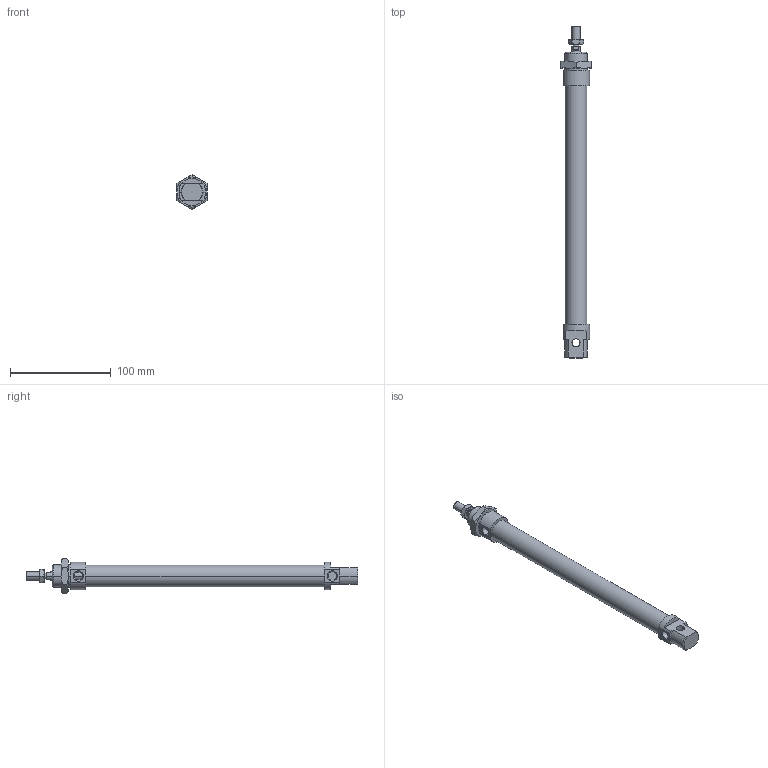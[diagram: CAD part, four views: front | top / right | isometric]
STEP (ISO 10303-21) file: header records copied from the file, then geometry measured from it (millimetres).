
FILE_DESCRIPTION((''),'2;1');
FILE_NAME('I:\DOC-EDP\Lib-3d\1200\CILINDRI\1280\1280_20_0200.stp','2003-04-07T16:10:47',('maffial1'),(''),'Autodesk Inventor (R) 6.0','Autodesk Inventor (R) 6.0','');
FILE_SCHEMA(('AUTOMOTIVE_DESIGN { 1 0 10303 214 1 1 1 1 }'));
Length unit declared in the file: millimetre
Products named in the file (5): 1280_20_0200; S1280_20_200; 1200_20_05; 1200_20_06; C1280_20_200
Assembly tree (4 placements, depth 2):
  1280_20_0200
    S1280_20_200
    1200_20_05
    1200_20_06
    C1280_20_200
Bounding box: 30 x 330 x 34.64 mm (x, y, z)
Volume: 114954.6 mm3; surface area: 37904.9 mm2
Topology: 4 solids, 4 shells, 124 faces, 281 edges, 170 vertices
Faces by surface type: plane 41, cone 40, cylinder 22, bspline 21
Entity records: 3816 total; most frequent: CARTESIAN_POINT 1039, DIRECTION 573, ORIENTED_EDGE 562, EDGE_CURVE 281, AXIS2_PLACEMENT_3D 236, VERTEX_POINT 170, EDGE_LOOP 137, FACE_OUTER_BOUND 124
